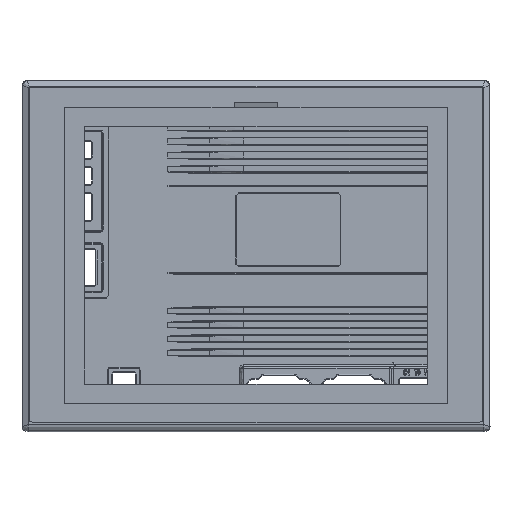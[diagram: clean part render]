
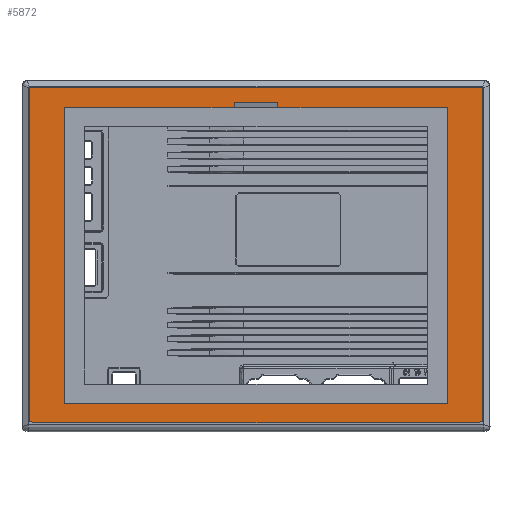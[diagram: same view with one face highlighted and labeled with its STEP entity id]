
A CAD part, top view. The second image highlights one B-rep face of the part: STEP entity #5872.
In plain terms, the highlighted planar face has unit normal (0, 0, 1).
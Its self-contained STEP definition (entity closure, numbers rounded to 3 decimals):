
#627=FACE_BOUND('',#7981,.T.);
#5872=ADVANCED_FACE('',(#6922,#627),#27856,.T.);
#6922=FACE_OUTER_BOUND('',#7980,.T.);
#7980=EDGE_LOOP('',(#9592,#9593,#9594,#9595,#9596,#9597));
#7981=EDGE_LOOP('',(#9598,#9599,#9600,#9601,#9602,#9603,#9604,#9605));
#9592=ORIENTED_EDGE('',*,*,#14791,.T.);
#9593=ORIENTED_EDGE('',*,*,#14792,.T.);
#9594=ORIENTED_EDGE('',*,*,#14802,.T.);
#9595=ORIENTED_EDGE('',*,*,#14793,.T.);
#9596=ORIENTED_EDGE('',*,*,#14801,.T.);
#9597=ORIENTED_EDGE('',*,*,#14794,.T.);
#9598=ORIENTED_EDGE('',*,*,#14789,.F.);
#9599=ORIENTED_EDGE('',*,*,#14795,.T.);
#9600=ORIENTED_EDGE('',*,*,#14796,.T.);
#9601=ORIENTED_EDGE('',*,*,#14797,.T.);
#9602=ORIENTED_EDGE('',*,*,#14798,.T.);
#9603=ORIENTED_EDGE('',*,*,#14799,.T.);
#9604=ORIENTED_EDGE('',*,*,#14800,.T.);
#9605=ORIENTED_EDGE('',*,*,#14790,.F.);
#14789=EDGE_CURVE('',#23254,#23253,#19791,.T.);
#14790=EDGE_CURVE('',#23253,#23255,#19792,.T.);
#14791=EDGE_CURVE('',#23256,#23257,#19793,.T.);
#14792=EDGE_CURVE('',#23257,#23258,#19794,.T.);
#14793=EDGE_CURVE('',#23259,#23260,#19795,.T.);
#14794=EDGE_CURVE('',#23261,#23256,#19796,.T.);
#14795=EDGE_CURVE('',#23254,#23262,#19797,.T.);
#14796=EDGE_CURVE('',#23262,#23263,#19798,.T.);
#14797=EDGE_CURVE('',#23263,#23264,#19799,.T.);
#14798=EDGE_CURVE('',#23264,#23265,#19800,.T.);
#14799=EDGE_CURVE('',#23265,#23266,#19801,.T.);
#14800=EDGE_CURVE('',#23266,#23255,#19802,.T.);
#14801=EDGE_CURVE('',#23260,#23261,#19803,.T.);
#14802=EDGE_CURVE('',#23258,#23259,#19804,.T.);
#19791=B_SPLINE_CURVE_WITH_KNOTS('',1,(#33475,#33476),.UNSPECIFIED.,.F.,
 .F.,(2,2),(-2.5,0.),.UNSPECIFIED.);
#19792=B_SPLINE_CURVE_WITH_KNOTS('',1,(#33477,#33478),.UNSPECIFIED.,.F.,
 .F.,(2,2),(-81.4,0.),.UNSPECIFIED.);
#19793=B_SPLINE_CURVE_WITH_KNOTS('',1,(#33479,#33480),.UNSPECIFIED.,.F.,
 .F.,(2,2),(-217.3,0.),.UNSPECIFIED.);
#19794=B_SPLINE_CURVE_WITH_KNOTS('',1,(#33481,#33482),.UNSPECIFIED.,.F.,
 .F.,(2,2),(-160.05,0.),.UNSPECIFIED.);
#19795=B_SPLINE_CURVE_WITH_KNOTS('',1,(#33483,#33484),.UNSPECIFIED.,.F.,
 .F.,(2,2),(-211.105,0.),.UNSPECIFIED.);
#19796=B_SPLINE_CURVE_WITH_KNOTS('',1,(#33485,#33486),.UNSPECIFIED.,.F.,
 .F.,(2,2),(-160.05,0.),.UNSPECIFIED.);
#19797=B_SPLINE_CURVE_WITH_KNOTS('',1,(#33487,#33488),.UNSPECIFIED.,.F.,
 .F.,(2,2),(0.,21.),.UNSPECIFIED.);
#19798=B_SPLINE_CURVE_WITH_KNOTS('',1,(#33489,#33490),.UNSPECIFIED.,.F.,
 .F.,(2,2),(0.,2.5),.UNSPECIFIED.);
#19799=B_SPLINE_CURVE_WITH_KNOTS('',1,(#33491,#33492),.UNSPECIFIED.,.F.,
 .F.,(2,2),(0.,81.4),.UNSPECIFIED.);
#19800=B_SPLINE_CURVE_WITH_KNOTS('',1,(#33493,#33494),.UNSPECIFIED.,.F.,
 .F.,(2,2),(0.,141.9),.UNSPECIFIED.);
#19801=B_SPLINE_CURVE_WITH_KNOTS('',1,(#33495,#33496),.UNSPECIFIED.,.F.,
 .F.,(2,2),(0.,183.8),.UNSPECIFIED.);
#19802=B_SPLINE_CURVE_WITH_KNOTS('',1,(#33497,#33498),.UNSPECIFIED.,.F.,
 .F.,(2,2),(0.,141.9),.UNSPECIFIED.);
#19803=B_SPLINE_CURVE_WITH_KNOTS('',1,(#33499,#33500),.UNSPECIFIED.,.F.,
 .F.,(2,2),(0.,3.207),.UNSPECIFIED.);
#19804=B_SPLINE_CURVE_WITH_KNOTS('',1,(#33501,#33502),.UNSPECIFIED.,.F.,
 .F.,(2,2),(0.,3.207),.UNSPECIFIED.);
#23253=VERTEX_POINT('',#33461);
#23254=VERTEX_POINT('',#33462);
#23255=VERTEX_POINT('',#33463);
#23256=VERTEX_POINT('',#33464);
#23257=VERTEX_POINT('',#33465);
#23258=VERTEX_POINT('',#33466);
#23259=VERTEX_POINT('',#33467);
#23260=VERTEX_POINT('',#33468);
#23261=VERTEX_POINT('',#33469);
#23262=VERTEX_POINT('',#33470);
#23263=VERTEX_POINT('',#33471);
#23264=VERTEX_POINT('',#33472);
#23265=VERTEX_POINT('',#33473);
#23266=VERTEX_POINT('',#33474);
#27856=PLANE('',#28318);
#28318=AXIS2_PLACEMENT_3D('',#33460,#28763,$);
#28763=DIRECTION('',(0.,0.,1.));
#33460=CARTESIAN_POINT('',(-18.18,-11.875,-0.783));
#33461=CARTESIAN_POINT('',(102.039,155.689,-0.783));
#33462=CARTESIAN_POINT('',(102.039,158.189,-0.783));
#33463=CARTESIAN_POINT('',(20.639,155.689,-0.783));
#33464=CARTESIAN_POINT('',(221.189,165.433,-0.783));
#33465=CARTESIAN_POINT('',(3.889,165.433,-0.783));
#33466=CARTESIAN_POINT('',(3.889,5.383,-0.783));
#33467=CARTESIAN_POINT('',(6.987,4.553,-0.783));
#33468=CARTESIAN_POINT('',(218.091,4.553,-0.783));
#33469=CARTESIAN_POINT('',(221.189,5.383,-0.783));
#33470=CARTESIAN_POINT('',(123.039,158.189,-0.783));
#33471=CARTESIAN_POINT('',(123.039,155.689,-0.783));
#33472=CARTESIAN_POINT('',(204.439,155.689,-0.783));
#33473=CARTESIAN_POINT('',(204.439,13.789,-0.783));
#33474=CARTESIAN_POINT('',(20.639,13.789,-0.783));
#33475=CARTESIAN_POINT('',(102.039,158.189,-0.783));
#33476=CARTESIAN_POINT('',(102.039,155.689,-0.783));
#33477=CARTESIAN_POINT('',(102.039,155.689,-0.783));
#33478=CARTESIAN_POINT('',(20.639,155.689,-0.783));
#33479=CARTESIAN_POINT('',(221.189,165.433,-0.783));
#33480=CARTESIAN_POINT('',(3.889,165.433,-0.783));
#33481=CARTESIAN_POINT('',(3.889,165.433,-0.783));
#33482=CARTESIAN_POINT('',(3.889,5.383,-0.783));
#33483=CARTESIAN_POINT('',(6.987,4.553,-0.783));
#33484=CARTESIAN_POINT('',(218.091,4.553,-0.783));
#33485=CARTESIAN_POINT('',(221.189,5.383,-0.783));
#33486=CARTESIAN_POINT('',(221.189,165.433,-0.783));
#33487=CARTESIAN_POINT('',(102.039,158.189,-0.783));
#33488=CARTESIAN_POINT('',(123.039,158.189,-0.783));
#33489=CARTESIAN_POINT('',(123.039,158.189,-0.783));
#33490=CARTESIAN_POINT('',(123.039,155.689,-0.783));
#33491=CARTESIAN_POINT('',(123.039,155.689,-0.783));
#33492=CARTESIAN_POINT('',(204.439,155.689,-0.783));
#33493=CARTESIAN_POINT('',(204.439,155.689,-0.783));
#33494=CARTESIAN_POINT('',(204.439,13.789,-0.783));
#33495=CARTESIAN_POINT('',(204.439,13.789,-0.783));
#33496=CARTESIAN_POINT('',(20.639,13.789,-0.783));
#33497=CARTESIAN_POINT('',(20.639,13.789,-0.783));
#33498=CARTESIAN_POINT('',(20.639,155.689,-0.783));
#33499=CARTESIAN_POINT('',(218.091,4.553,-0.783));
#33500=CARTESIAN_POINT('',(221.189,5.383,-0.783));
#33501=CARTESIAN_POINT('',(3.889,5.383,-0.783));
#33502=CARTESIAN_POINT('',(6.987,4.553,-0.783));
